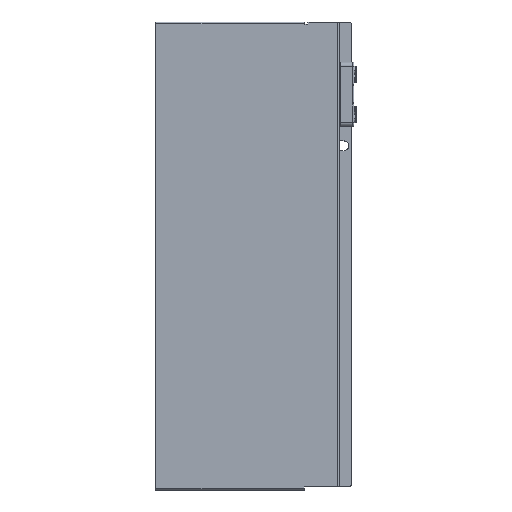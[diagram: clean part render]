
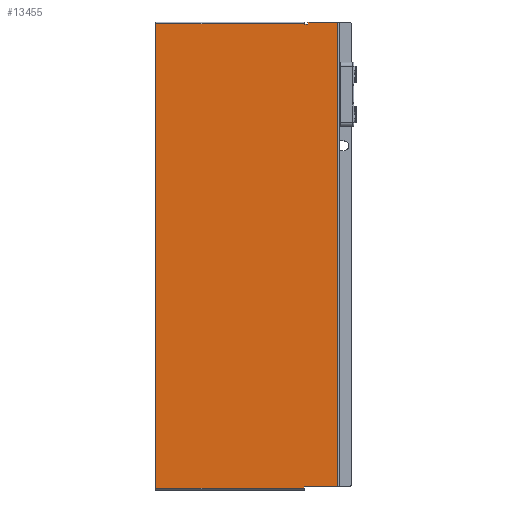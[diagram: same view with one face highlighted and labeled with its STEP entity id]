
A CAD part, left-side view. The second image highlights one B-rep face of the part: STEP entity #13455.
In plain terms, the highlighted planar face has unit normal (-1, 0, 0).
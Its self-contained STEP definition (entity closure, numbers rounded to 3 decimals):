
#139 = VECTOR ( 'NONE', #7264, 1000. ) ;
#293 = VERTEX_POINT ( 'NONE', #1062 ) ;
#423 = FACE_OUTER_BOUND ( 'NONE', #10538, .T. ) ;
#718 = VECTOR ( 'NONE', #12497, 1000. ) ;
#1009 = PLANE ( 'NONE',  #4876 ) ;
#1062 = CARTESIAN_POINT ( 'NONE',  ( -1.2, 18.7, 143.5 ) ) ;
#1138 = VERTEX_POINT ( 'NONE', #7817 ) ;
#1196 = DIRECTION ( 'NONE',  ( 0., -1., 0. ) ) ;
#1357 = CARTESIAN_POINT ( 'NONE',  ( -1.2, 113., 143.8 ) ) ;
#1407 = CARTESIAN_POINT ( 'NONE',  ( -1.2, 18.7, 143.7 ) ) ;
#1477 = VERTEX_POINT ( 'NONE', #4666 ) ;
#1522 = ORIENTED_EDGE ( 'NONE', *, *, #8183, .T. ) ;
#1531 = ORIENTED_EDGE ( 'NONE', *, *, #8206, .T. ) ;
#1579 = LINE ( 'NONE', #1828, #7145 ) ;
#1663 = VERTEX_POINT ( 'NONE', #5754 ) ;
#1822 = CARTESIAN_POINT ( 'NONE',  ( -1.2, 18.3, 144.8 ) ) ;
#1828 = CARTESIAN_POINT ( 'NONE',  ( -1.2, 0., -145. ) ) ;
#1881 = ORIENTED_EDGE ( 'NONE', *, *, #9459, .F. ) ;
#2115 = CARTESIAN_POINT ( 'NONE',  ( -1.2, 0., 145. ) ) ;
#2365 = DIRECTION ( 'NONE',  ( 0., 1., 0. ) ) ;
#2412 = CARTESIAN_POINT ( 'NONE',  ( -1.2, 0., 145. ) ) ;
#2530 = DIRECTION ( 'NONE',  ( 0., 0., -1. ) ) ;
#2727 = CIRCLE ( 'NONE', #10719, 0.2 ) ;
#2785 = DIRECTION ( 'NONE',  ( 1., 0., 0. ) ) ;
#2877 = CARTESIAN_POINT ( 'NONE',  ( -1.2, 18.3, 145. ) ) ;
#2932 = DIRECTION ( 'NONE',  ( 0., 0., -1. ) ) ;
#3104 = EDGE_CURVE ( 'NONE', #1138, #7914, #1579, .T. ) ;
#3235 = DIRECTION ( 'NONE',  ( 0., 0., -1. ) ) ;
#3362 = DIRECTION ( 'NONE',  ( 0., 0., -1. ) ) ;
#3548 = CARTESIAN_POINT ( 'NONE',  ( -1.2, 20.5, 145. ) ) ;
#3754 = EDGE_CURVE ( 'NONE', #4619, #3884, #4505, .T. ) ;
#3884 = VERTEX_POINT ( 'NONE', #1357 ) ;
#3904 = VECTOR ( 'NONE', #3362, 1000. ) ;
#4088 = DIRECTION ( 'NONE',  ( 0., 1., 0. ) ) ;
#4349 = CARTESIAN_POINT ( 'NONE',  ( -1.2, 20.5, -144. ) ) ;
#4389 = EDGE_CURVE ( 'NONE', #8783, #293, #10163, .T. ) ;
#4505 = LINE ( 'NONE', #9754, #13382 ) ;
#4619 = VERTEX_POINT ( 'NONE', #5069 ) ;
#4662 = DIRECTION ( 'NONE',  ( 0., 0., 1. ) ) ;
#4666 = CARTESIAN_POINT ( 'NONE',  ( -1.2, 0., -144. ) ) ;
#4876 = AXIS2_PLACEMENT_3D ( 'NONE', #2115, #9901, #3235 ) ;
#5022 = ORIENTED_EDGE ( 'NONE', *, *, #6830, .T. ) ;
#5069 = CARTESIAN_POINT ( 'NONE',  ( -1.2, 20.5, 143.8 ) ) ;
#5362 = ORIENTED_EDGE ( 'NONE', *, *, #9813, .T. ) ;
#5365 = DIRECTION ( 'NONE',  ( 0., 1., 0. ) ) ;
#5754 = CARTESIAN_POINT ( 'NONE',  ( -1.2, 20.5, 143.7 ) ) ;
#5864 = EDGE_CURVE ( 'NONE', #1663, #4619, #10311, .T. ) ;
#5960 = EDGE_CURVE ( 'NONE', #7914, #13498, #14099, .T. ) ;
#6137 = CARTESIAN_POINT ( 'NONE',  ( -1.2, 18.5, 145. ) ) ;
#6305 = AXIS2_PLACEMENT_3D ( 'NONE', #9454, #2785, #10594 ) ;
#6356 = CARTESIAN_POINT ( 'NONE',  ( -1.2, 20.3, 143.5 ) ) ;
#6377 = CIRCLE ( 'NONE', #6305, 0.2 ) ;
#6492 = ORIENTED_EDGE ( 'NONE', *, *, #14388, .F. ) ;
#6830 = EDGE_CURVE ( 'NONE', #1477, #10018, #7655, .T. ) ;
#6899 = LINE ( 'NONE', #7795, #3904 ) ;
#7125 = ORIENTED_EDGE ( 'NONE', *, *, #5960, .T. ) ;
#7145 = VECTOR ( 'NONE', #1196, 1000. ) ;
#7149 = CARTESIAN_POINT ( 'NONE',  ( -1.2, 20.5, -146.2 ) ) ;
#7225 = VERTEX_POINT ( 'NONE', #6356 ) ;
#7264 = DIRECTION ( 'NONE',  ( 0., 0., -1. ) ) ;
#7655 = LINE ( 'NONE', #11341, #13574 ) ;
#7795 = CARTESIAN_POINT ( 'NONE',  ( -1.2, 113., 145. ) ) ;
#7817 = CARTESIAN_POINT ( 'NONE',  ( -1.2, 113., -145. ) ) ;
#7914 = VERTEX_POINT ( 'NONE', #10940 ) ;
#8117 = LINE ( 'NONE', #10153, #13687 ) ;
#8183 = EDGE_CURVE ( 'NONE', #7225, #1663, #6377, .T. ) ;
#8206 = EDGE_CURVE ( 'NONE', #11415, #8783, #8990, .T. ) ;
#8717 = LINE ( 'NONE', #9001, #11357 ) ;
#8783 = VERTEX_POINT ( 'NONE', #12358 ) ;
#8820 = ORIENTED_EDGE ( 'NONE', *, *, #3754, .T. ) ;
#8990 = LINE ( 'NONE', #6137, #139 ) ;
#9001 = CARTESIAN_POINT ( 'NONE',  ( -1.2, 0., 145. ) ) ;
#9094 = EDGE_CURVE ( 'NONE', #9655, #11415, #2727, .T. ) ;
#9189 = DIRECTION ( 'NONE',  ( 1., 0., 0. ) ) ;
#9454 = CARTESIAN_POINT ( 'NONE',  ( -1.2, 20.3, 143.7 ) ) ;
#9459 = EDGE_CURVE ( 'NONE', #1477, #13498, #8117, .T. ) ;
#9605 = DIRECTION ( 'NONE',  ( -1., 0., 0. ) ) ;
#9655 = VERTEX_POINT ( 'NONE', #2877 ) ;
#9657 = CARTESIAN_POINT ( 'NONE',  ( -1.2, 0., 143.5 ) ) ;
#9754 = CARTESIAN_POINT ( 'NONE',  ( -1.2, 0., 143.8 ) ) ;
#9813 = EDGE_CURVE ( 'NONE', #3884, #1138, #6899, .T. ) ;
#9874 = ORIENTED_EDGE ( 'NONE', *, *, #4389, .T. ) ;
#9901 = DIRECTION ( 'NONE',  ( 1., 0., 0. ) ) ;
#10018 = VERTEX_POINT ( 'NONE', #2412 ) ;
#10133 = DIRECTION ( 'NONE',  ( 0., -1., 0. ) ) ;
#10153 = CARTESIAN_POINT ( 'NONE',  ( -1.2, -1.2, -144. ) ) ;
#10155 = ORIENTED_EDGE ( 'NONE', *, *, #9094, .T. ) ;
#10163 = CIRCLE ( 'NONE', #11518, 0.2 ) ;
#10311 = LINE ( 'NONE', #3548, #718 ) ;
#10538 = EDGE_LOOP ( 'NONE', ( #6492, #10155, #1531, #9874, #11275, #1522, #12316, #8820, #5362, #11138, #7125, #1881, #5022 ) ) ;
#10594 = DIRECTION ( 'NONE',  ( 0., 0., -1. ) ) ;
#10643 = CARTESIAN_POINT ( 'NONE',  ( -1.2, 18.5, 144.8 ) ) ;
#10719 = AXIS2_PLACEMENT_3D ( 'NONE', #1822, #9605, #2932 ) ;
#10940 = CARTESIAN_POINT ( 'NONE',  ( -1.2, 20.5, -145. ) ) ;
#11138 = ORIENTED_EDGE ( 'NONE', *, *, #3104, .T. ) ;
#11165 = VECTOR ( 'NONE', #12672, 1000. ) ;
#11275 = ORIENTED_EDGE ( 'NONE', *, *, #12741, .T. ) ;
#11341 = CARTESIAN_POINT ( 'NONE',  ( -1.2, 0., 145. ) ) ;
#11357 = VECTOR ( 'NONE', #10133, 1000. ) ;
#11403 = LINE ( 'NONE', #9657, #13993 ) ;
#11415 = VERTEX_POINT ( 'NONE', #10643 ) ;
#11518 = AXIS2_PLACEMENT_3D ( 'NONE', #1407, #9189, #2530 ) ;
#12316 = ORIENTED_EDGE ( 'NONE', *, *, #5864, .T. ) ;
#12358 = CARTESIAN_POINT ( 'NONE',  ( -1.2, 18.5, 143.7 ) ) ;
#12497 = DIRECTION ( 'NONE',  ( 0., 0., 1. ) ) ;
#12672 = DIRECTION ( 'NONE',  ( 0., 0., 1. ) ) ;
#12741 = EDGE_CURVE ( 'NONE', #293, #7225, #11403, .T. ) ;
#13382 = VECTOR ( 'NONE', #5365, 1000. ) ;
#13455 = ADVANCED_FACE ( 'NONE', ( #423 ), #1009, .F. ) ;
#13498 = VERTEX_POINT ( 'NONE', #4349 ) ;
#13574 = VECTOR ( 'NONE', #4662, 1000. ) ;
#13687 = VECTOR ( 'NONE', #2365, 1000. ) ;
#13993 = VECTOR ( 'NONE', #4088, 1000. ) ;
#14099 = LINE ( 'NONE', #7149, #11165 ) ;
#14388 = EDGE_CURVE ( 'NONE', #9655, #10018, #8717, .T. ) ;
